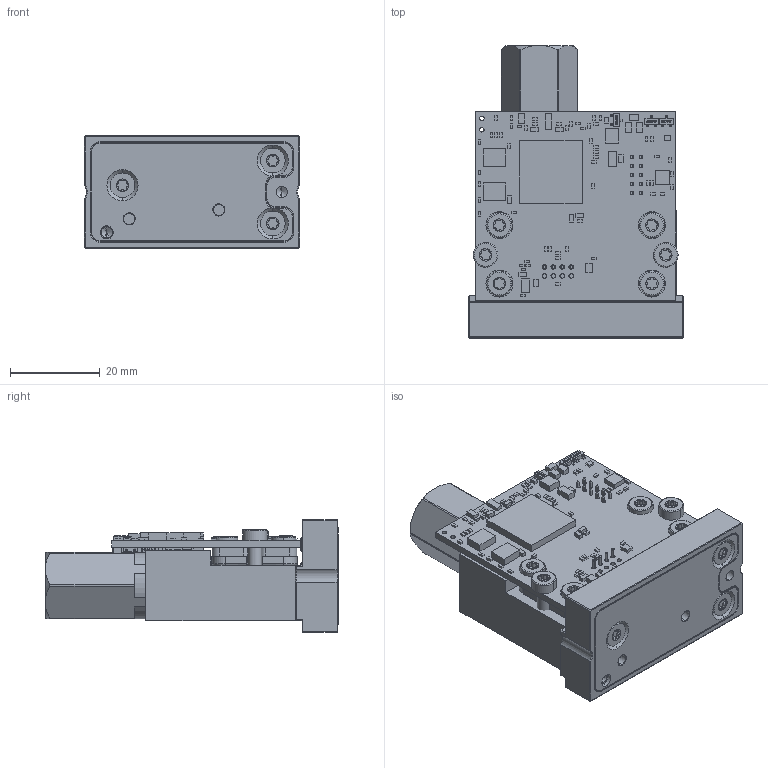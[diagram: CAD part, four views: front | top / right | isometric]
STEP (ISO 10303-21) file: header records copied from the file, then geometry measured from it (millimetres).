
FILE_DESCRIPTION (( 'STEP AP214' ), '1' );
FILE_NAME ('125438-_Publikationsmodell Breithorn Bristen.step', '2019-11-13T12:48:41', ( 'IT' ), ( '' ), 'SwSTEP 2.0', 'SolidWorks 2017', '' );
FILE_SCHEMA (( 'AUTOMOTIVE_DESIGN' ));
Length unit declared in the file: millimetre
Products named in the file (1): 125438-_Publikationsmodell Breithorn Bristen
Bounding box: 48 x 65.15 x 25 mm (x, y, z)
Volume: 36930.6 mm3; surface area: 25274 mm2
Topology: 126 solids, 126 shells, 2648 faces, 6553 edges, 4226 vertices
Faces by surface type: plane 1682, cylinder 488, bspline 282, cone 180, torus 16
Entity records: 106283 total; most frequent: CARTESIAN_POINT 17912, ORIENTED_EDGE 13058, DIRECTION 11512, EDGE_CURVE 6529, VECTOR 4704, LINE 4704, VERTEX_POINT 4226, AXIS2_PLACEMENT_3D 3404
